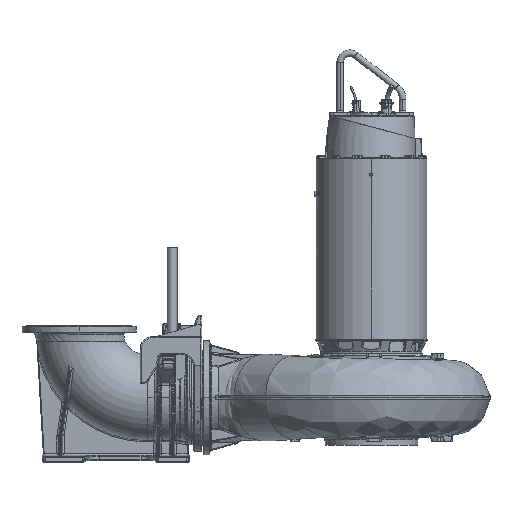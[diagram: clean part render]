
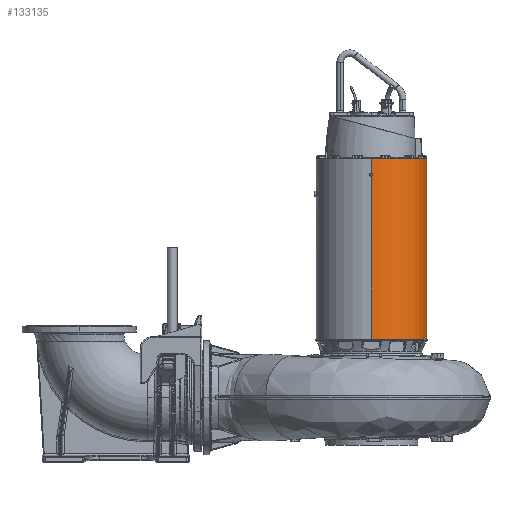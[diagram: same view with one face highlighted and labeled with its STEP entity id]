
A CAD part, top view. The second image highlights one B-rep face of the part: STEP entity #133135.
In plain terms, the highlighted cylindrical face has radius 344 mm (diameter 688 mm), a partial arc.
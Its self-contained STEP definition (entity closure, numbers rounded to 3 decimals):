
#10566 = EDGE_CURVE ( 'NONE', #172274, #63610, #97990, .T. ) ;
#11257 = CARTESIAN_POINT ( 'NONE',  ( 0., 994.03, -344. ) ) ;
#13678 =( BOUNDED_CURVE ( )  B_SPLINE_CURVE ( 3, ( #117451, #277494, #171131, #11257 ),
 .UNSPECIFIED., .F., .F. ) 
 B_SPLINE_CURVE_WITH_KNOTS ( ( 4, 4 ),
 ( 1.543, 1.571 ),
 .UNSPECIFIED. ) 
 CURVE ( )  GEOMETRIC_REPRESENTATION_ITEM ( )  RATIONAL_B_SPLINE_CURVE ( ( 1., 1., 1., 1. ) ) 
 REPRESENTATION_ITEM ( '' )  );
#20465 = DIRECTION ( 'NONE',  ( 1., 0., 0. ) ) ;
#21991 = VERTEX_POINT ( 'NONE', #269140 ) ;
#22121 = VERTEX_POINT ( 'NONE', #256034 ) ;
#22741 = VECTOR ( 'NONE', #100274, 1000. ) ;
#25626 = DIRECTION ( 'NONE',  ( 0., 0., -1. ) ) ;
#31044 = DIRECTION ( 'NONE',  ( 0., 0., -1. ) ) ;
#37669 = VERTEX_POINT ( 'NONE', #52252 ) ;
#42396 = CARTESIAN_POINT ( 'NONE',  ( 0., 0., 344. ) ) ;
#42767 = CARTESIAN_POINT ( 'NONE',  ( 9.5, 1010.485, 343.869 ) ) ;
#45110 = ORIENTED_EDGE ( 'NONE', *, *, #123086, .T. ) ;
#47029 = CARTESIAN_POINT ( 'NONE',  ( 9.5, 1010.485, -343.869 ) ) ;
#49054 = ORIENTED_EDGE ( 'NONE', *, *, #156252, .T. ) ;
#49052 = CARTESIAN_POINT ( 'NONE',  ( 0., 1015.97, 344. ) ) ;
#50614 = ORIENTED_EDGE ( 'NONE', *, *, #263233, .T. ) ;
#52252 = CARTESIAN_POINT ( 'NONE',  ( 9.5, 999.515, -343.869 ) ) ;
#53521 = EDGE_CURVE ( 'NONE', #57883, #37669, #156957, .T. ) ;
#53789 = ORIENTED_EDGE ( 'NONE', *, *, #76122, .F. ) ;
#55350 =( BOUNDED_CURVE ( )  B_SPLINE_CURVE ( 3, ( #76112, #234779, #289694, #129576 ),
 .UNSPECIFIED., .F., .F. ) 
 B_SPLINE_CURVE_WITH_KNOTS ( ( 4, 4 ),
 ( 1.571, 1.598 ),
 .UNSPECIFIED. ) 
 CURVE ( )  GEOMETRIC_REPRESENTATION_ITEM ( )  RATIONAL_B_SPLINE_CURVE ( ( 1., 1., 1., 1. ) ) 
 REPRESENTATION_ITEM ( '' )  );
#55556 = VECTOR ( 'NONE', #186096, 1000. ) ;
#56806 = ORIENTED_EDGE ( 'NONE', *, *, #53521, .F. ) ;
#57883 = VERTEX_POINT ( 'NONE', #47029 ) ;
#63610 = VERTEX_POINT ( 'NONE', #175554 ) ;
#67077 = CARTESIAN_POINT ( 'NONE',  ( 6.334, 997.687, 343.956 ) ) ;
#68480 = CARTESIAN_POINT ( 'NONE',  ( 0., 1015.97, 344. ) ) ;
#74460 =( BOUNDED_CURVE ( )  B_SPLINE_CURVE ( 3, ( #68480, #255231, #202618, #42767 ),
 .UNSPECIFIED., .F., .F. ) 
 B_SPLINE_CURVE_WITH_KNOTS ( ( 4, 4 ),
 ( 1.571, 1.598 ),
 .UNSPECIFIED. ) 
 CURVE ( )  GEOMETRIC_REPRESENTATION_ITEM ( )  RATIONAL_B_SPLINE_CURVE ( ( 1., 1., 1., 1. ) ) 
 REPRESENTATION_ITEM ( '' )  );
#75456 = ORIENTED_EDGE ( 'NONE', *, *, #100950, .F. ) ;
#76112 = CARTESIAN_POINT ( 'NONE',  ( 0., 1015.97, -344. ) ) ;
#76122 = EDGE_CURVE ( 'NONE', #288003, #57883, #55350, .T. ) ;
#78808 = CARTESIAN_POINT ( 'NONE',  ( 9.5, 1245.349, 343.869 ) ) ;
#83648 = CARTESIAN_POINT ( 'NONE',  ( 0., 0., 0. ) ) ;
#86261 = VERTEX_POINT ( 'NONE', #144328 ) ;
#86973 = DIRECTION ( 'NONE',  ( 0., -1., 0. ) ) ;
#92411 = CARTESIAN_POINT ( 'NONE',  ( 0., 1015.97, -344. ) ) ;
#93952 = CARTESIAN_POINT ( 'NONE',  ( 3.167, 995.859, 344. ) ) ;
#97842 = VERTEX_POINT ( 'NONE', #247499 ) ;
#97990 =( BOUNDED_CURVE ( )  B_SPLINE_CURVE ( 3, ( #253833, #67077, #93952, #280712 ),
 .UNSPECIFIED., .F., .F. ) 
 B_SPLINE_CURVE_WITH_KNOTS ( ( 4, 4 ),
 ( 1.543, 1.571 ),
 .UNSPECIFIED. ) 
 CURVE ( )  GEOMETRIC_REPRESENTATION_ITEM ( )  RATIONAL_B_SPLINE_CURVE ( ( 1., 1., 1., 1. ) ) 
 REPRESENTATION_ITEM ( '' )  );
#98112 = ORIENTED_EDGE ( 'NONE', *, *, #10566, .T. ) ;
#99496 = CARTESIAN_POINT ( 'NONE',  ( 0., 1105., 344. ) ) ;
#100274 = DIRECTION ( 'NONE',  ( 0., -1., 0. ) ) ;
#100950 = EDGE_CURVE ( 'NONE', #37669, #21991, #13678, .T. ) ;
#102155 = LINE ( 'NONE', #149088, #22741 ) ;
#104477 = LINE ( 'NONE', #289940, #309083 ) ;
#110323 = EDGE_LOOP ( 'NONE', ( #49054, #165896, #45110, #50614, #98112, #118645, #219655, #114890, #75456, #56806, #53789, #278132 ) ) ;
#111663 = EDGE_CURVE ( 'NONE', #86261, #288003, #271102, .T. ) ;
#114890 = ORIENTED_EDGE ( 'NONE', *, *, #340327, .F. ) ;
#117451 = CARTESIAN_POINT ( 'NONE',  ( 9.5, 999.515, -343.869 ) ) ;
#118645 = ORIENTED_EDGE ( 'NONE', *, *, #194179, .T. ) ;
#123086 = EDGE_CURVE ( 'NONE', #209770, #22121, #74460, .T. ) ;
#126381 = LINE ( 'NONE', #78808, #55556 ) ;
#129576 = CARTESIAN_POINT ( 'NONE',  ( 9.5, 1010.485, -343.869 ) ) ;
#133135 = ADVANCED_FACE ( 'NONE', ( #274449 ), #169784, .T. ) ;
#144328 = CARTESIAN_POINT ( 'NONE',  ( 0., 1105., -344. ) ) ;
#149088 = CARTESIAN_POINT ( 'NONE',  ( 0., 0., -344. ) ) ;
#153136 = DIRECTION ( 'NONE',  ( 0., -1., 0. ) ) ;
#156252 = EDGE_CURVE ( 'NONE', #86261, #197608, #174384, .T. ) ;
#156957 = LINE ( 'NONE', #246009, #290830 ) ;
#165896 = ORIENTED_EDGE ( 'NONE', *, *, #268479, .T. ) ;
#169784 = CYLINDRICAL_SURFACE ( 'NONE', #187850, 344. ) ;
#171131 = CARTESIAN_POINT ( 'NONE',  ( 3.167, 995.859, -344. ) ) ;
#172274 = VERTEX_POINT ( 'NONE', #328190 ) ;
#174384 = CIRCLE ( 'NONE', #247196, 344. ) ;
#175253 = CARTESIAN_POINT ( 'NONE',  ( 0., -20., -344. ) ) ;
#175554 = CARTESIAN_POINT ( 'NONE',  ( 0., 994.03, 344. ) ) ;
#180362 = DIRECTION ( 'NONE',  ( 0., -1., 0. ) ) ;
#185523 = DIRECTION ( 'NONE',  ( 0., -1., 0. ) ) ;
#186096 = DIRECTION ( 'NONE',  ( 0., -1., 0. ) ) ;
#187850 = AXIS2_PLACEMENT_3D ( 'NONE', #83648, #243515, #31044 ) ;
#193084 = CARTESIAN_POINT ( 'NONE',  ( 0., 0., -344. ) ) ;
#194179 = EDGE_CURVE ( 'NONE', #63610, #97842, #104477, .T. ) ;
#197608 = VERTEX_POINT ( 'NONE', #99496 ) ;
#199964 = VECTOR ( 'NONE', #86973, 1000. ) ;
#202259 = DIRECTION ( 'NONE',  ( 0., -1., 0. ) ) ;
#202618 = CARTESIAN_POINT ( 'NONE',  ( 6.334, 1012.313, 343.956 ) ) ;
#209770 = VERTEX_POINT ( 'NONE', #49052 ) ;
#213780 = VERTEX_POINT ( 'NONE', #175253 ) ;
#219655 = ORIENTED_EDGE ( 'NONE', *, *, #264122, .F. ) ;
#234779 = CARTESIAN_POINT ( 'NONE',  ( 3.167, 1014.141, -344. ) ) ;
#243515 = DIRECTION ( 'NONE',  ( 0., -1., 0. ) ) ;
#246009 = CARTESIAN_POINT ( 'NONE',  ( 9.5, 1245.349, -343.869 ) ) ;
#247196 = AXIS2_PLACEMENT_3D ( 'NONE', #345498, #185523, #25626 ) ;
#247499 = CARTESIAN_POINT ( 'NONE',  ( 0., -20., 344. ) ) ;
#253426 = LINE ( 'NONE', #42396, #324446 ) ;
#253833 = CARTESIAN_POINT ( 'NONE',  ( 9.5, 999.515, 343.869 ) ) ;
#255231 = CARTESIAN_POINT ( 'NONE',  ( 3.167, 1014.141, 344. ) ) ;
#256034 = CARTESIAN_POINT ( 'NONE',  ( 9.5, 1010.485, 343.869 ) ) ;
#262991 = AXIS2_PLACEMENT_3D ( 'NONE', #340371, #180362, #20465 ) ;
#263233 = EDGE_CURVE ( 'NONE', #22121, #172274, #126381, .T. ) ;
#264122 = EDGE_CURVE ( 'NONE', #213780, #97842, #334510, .T. ) ;
#268479 = EDGE_CURVE ( 'NONE', #197608, #209770, #253426, .T. ) ;
#269140 = CARTESIAN_POINT ( 'NONE',  ( 0., 994.03, -344. ) ) ;
#271102 = LINE ( 'NONE', #193084, #199964 ) ;
#272893 = DIRECTION ( 'NONE',  ( 0., -1., 0. ) ) ;
#274449 = FACE_OUTER_BOUND ( 'NONE', #110323, .T. ) ;
#277494 = CARTESIAN_POINT ( 'NONE',  ( 6.334, 997.687, -343.956 ) ) ;
#278132 = ORIENTED_EDGE ( 'NONE', *, *, #111663, .F. ) ;
#280712 = CARTESIAN_POINT ( 'NONE',  ( 0., 994.03, 344. ) ) ;
#288003 = VERTEX_POINT ( 'NONE', #92411 ) ;
#289694 = CARTESIAN_POINT ( 'NONE',  ( 6.334, 1012.313, -343.956 ) ) ;
#289940 = CARTESIAN_POINT ( 'NONE',  ( 0., 0., 344. ) ) ;
#290830 = VECTOR ( 'NONE', #272893, 1000. ) ;
#309083 = VECTOR ( 'NONE', #153136, 1000. ) ;
#324446 = VECTOR ( 'NONE', #202259, 1000. ) ;
#328190 = CARTESIAN_POINT ( 'NONE',  ( 9.5, 999.515, 343.869 ) ) ;
#334510 = CIRCLE ( 'NONE', #262991, 344. ) ;
#340327 = EDGE_CURVE ( 'NONE', #21991, #213780, #102155, .T. ) ;
#340371 = CARTESIAN_POINT ( 'NONE',  ( 0., -20., 0. ) ) ;
#345498 = CARTESIAN_POINT ( 'NONE',  ( 0., 1105., 0. ) ) ;
